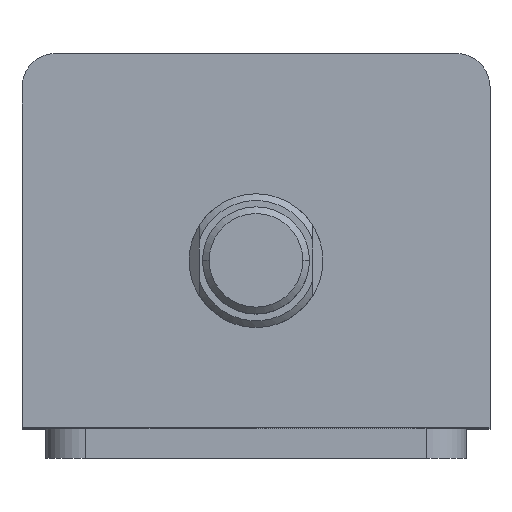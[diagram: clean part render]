
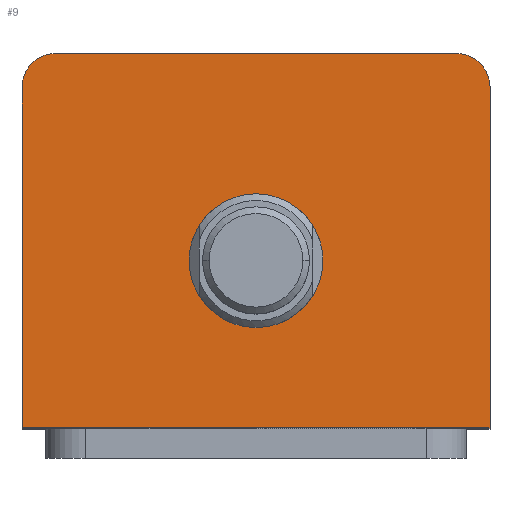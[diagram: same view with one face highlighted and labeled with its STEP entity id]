
A CAD part, top view. The second image highlights one B-rep face of the part: STEP entity #9.
In plain terms, the highlighted planar face has unit normal (0, 0, 1).
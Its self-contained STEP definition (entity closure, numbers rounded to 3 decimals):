
#9 = ADVANCED_FACE ( 'NONE', ( #2181, #2189 ), #1632, .T. ) ;
#150 = ORIENTED_EDGE ( 'NONE', *, *, #2523, .T. ) ;
#151 = ORIENTED_EDGE ( 'NONE', *, *, #2445, .T. ) ;
#152 = ORIENTED_EDGE ( 'NONE', *, *, #2441, .T. ) ;
#153 = ORIENTED_EDGE ( 'NONE', *, *, #2495, .T. ) ;
#154 = ORIENTED_EDGE ( 'NONE', *, *, #2429, .T. ) ;
#155 = ORIENTED_EDGE ( 'NONE', *, *, #2420, .T. ) ;
#156 = ORIENTED_EDGE ( 'NONE', *, *, #2530, .F. ) ;
#158 = ORIENTED_EDGE ( 'NONE', *, *, #2458, .F. ) ;
#544 = AXIS2_PLACEMENT_3D ( 'NONE', #2728, #2727, #2726 ) ;
#579 = AXIS2_PLACEMENT_3D ( 'NONE', #2810, #2805, #2798 ) ;
#582 = AXIS2_PLACEMENT_3D ( 'NONE', #662, #661, #658 ) ;
#590 = AXIS2_PLACEMENT_3D ( 'NONE', #717, #716, #714 ) ;
#649 = CARTESIAN_POINT ( 'NONE',  ( -35., 28., 129. ) ) ;
#658 = DIRECTION ( 'NONE',  ( 1., 0., 0. ) ) ;
#661 = DIRECTION ( 'NONE',  ( 0., 0., 1. ) ) ;
#662 = CARTESIAN_POINT ( 'NONE',  ( -30., 23., 129. ) ) ;
#714 = DIRECTION ( 'NONE',  ( 1., 0., 0. ) ) ;
#716 = DIRECTION ( 'NONE',  ( 0., 0., 1. ) ) ;
#717 = CARTESIAN_POINT ( 'NONE',  ( 30., 23., 129. ) ) ;
#758 = DIRECTION ( 'NONE',  ( 0., 1., 0. ) ) ;
#759 = CARTESIAN_POINT ( 'NONE',  ( 35., 28., 129. ) ) ;
#922 = CARTESIAN_POINT ( 'NONE',  ( 35., -28., 129. ) ) ;
#1202 = VERTEX_POINT ( 'NONE', #1610 ) ;
#1206 = VERTEX_POINT ( 'NONE', #1605 ) ;
#1228 = VERTEX_POINT ( 'NONE', #1579 ) ;
#1237 = VERTEX_POINT ( 'NONE', #1570 ) ;
#1241 = VERTEX_POINT ( 'NONE', #1567 ) ;
#1257 = VERTEX_POINT ( 'NONE', #1551 ) ;
#1266 = VERTEX_POINT ( 'NONE', #1540 ) ;
#1315 = VERTEX_POINT ( 'NONE', #922 ) ;
#1540 = CARTESIAN_POINT ( 'NONE',  ( -10., -3., 129. ) ) ;
#1551 = CARTESIAN_POINT ( 'NONE',  ( 10., -3., 129. ) ) ;
#1567 = CARTESIAN_POINT ( 'NONE',  ( 35., 23., 129. ) ) ;
#1570 = CARTESIAN_POINT ( 'NONE',  ( -35., 23., 129. ) ) ;
#1579 = CARTESIAN_POINT ( 'NONE',  ( -30., 28., 129. ) ) ;
#1605 = CARTESIAN_POINT ( 'NONE',  ( -35., -28., 129. ) ) ;
#1610 = CARTESIAN_POINT ( 'NONE',  ( 30., 28., 129. ) ) ;
#1632 = PLANE ( 'NONE',  #2011 ) ;
#1652 = CARTESIAN_POINT ( 'NONE',  ( 0., 0., 129. ) ) ;
#1798 = DIRECTION ( 'NONE',  ( 0., 0., 1. ) ) ;
#2011 = AXIS2_PLACEMENT_3D ( 'NONE', #1652, #1798, #2061 ) ;
#2061 = DIRECTION ( 'NONE',  ( 1., 0., 0. ) ) ;
#2138 = EDGE_LOOP ( 'NONE', ( #158, #156 ) ) ;
#2152 = EDGE_LOOP ( 'NONE', ( #155, #154, #153, #152, #151, #150 ) ) ;
#2181 = FACE_BOUND ( 'NONE', #2138, .T. ) ;
#2189 = FACE_OUTER_BOUND ( 'NONE', #2152, .T. ) ;
#2420 = EDGE_CURVE ( 'NONE', #1315, #1241, #3005, .T. ) ;
#2429 = EDGE_CURVE ( 'NONE', #1241, #1202, #3015, .T. ) ;
#2441 = EDGE_CURVE ( 'NONE', #1228, #1237, #3032, .T. ) ;
#2445 = EDGE_CURVE ( 'NONE', #1237, #1206, #3038, .T. ) ;
#2458 = EDGE_CURVE ( 'NONE', #1257, #1266, #3064, .T. ) ;
#2495 = EDGE_CURVE ( 'NONE', #1202, #1228, #3118, .T. ) ;
#2523 = EDGE_CURVE ( 'NONE', #1206, #1315, #3156, .T. ) ;
#2530 = EDGE_CURVE ( 'NONE', #1266, #1257, #3168, .T. ) ;
#2726 = DIRECTION ( 'NONE',  ( 1., 0., 0. ) ) ;
#2727 = DIRECTION ( 'NONE',  ( 0., 0., 1. ) ) ;
#2728 = CARTESIAN_POINT ( 'NONE',  ( 0., -3., 129. ) ) ;
#2749 = DIRECTION ( 'NONE',  ( 1., 0., 0. ) ) ;
#2751 = CARTESIAN_POINT ( 'NONE',  ( -35., -28., 129. ) ) ;
#2798 = DIRECTION ( 'NONE',  ( 1., 0., 0. ) ) ;
#2805 = DIRECTION ( 'NONE',  ( 0., 0., 1. ) ) ;
#2810 = CARTESIAN_POINT ( 'NONE',  ( 0., -3., 129. ) ) ;
#2859 = CARTESIAN_POINT ( 'NONE',  ( -35., 28., 129. ) ) ;
#2860 = DIRECTION ( 'NONE',  ( -1., 0., 0. ) ) ;
#2893 = DIRECTION ( 'NONE',  ( 0., -1., 0. ) ) ;
#3005 = LINE ( 'NONE', #759, #3008 ) ;
#3008 = VECTOR ( 'NONE', #758, 1000. ) ;
#3015 = CIRCLE ( 'NONE', #590, 5. ) ;
#3032 = CIRCLE ( 'NONE', #582, 5. ) ;
#3038 = LINE ( 'NONE', #649, #3041 ) ;
#3041 = VECTOR ( 'NONE', #2893, 1000. ) ;
#3064 = CIRCLE ( 'NONE', #579, 10. ) ;
#3118 = LINE ( 'NONE', #2859, #3120 ) ;
#3120 = VECTOR ( 'NONE', #2860, 1000. ) ;
#3156 = LINE ( 'NONE', #2751, #3159 ) ;
#3159 = VECTOR ( 'NONE', #2749, 1000. ) ;
#3168 = CIRCLE ( 'NONE', #544, 10. ) ;
